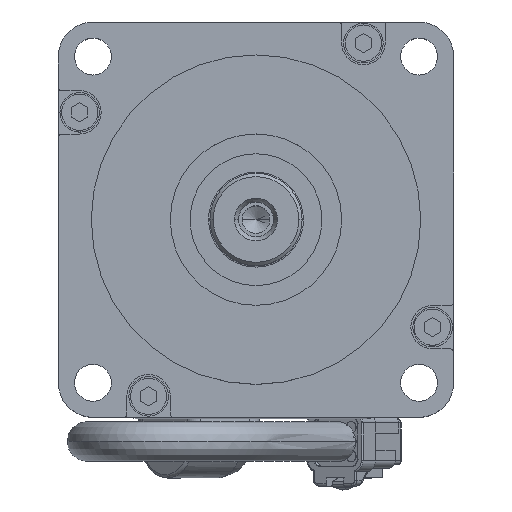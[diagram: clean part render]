
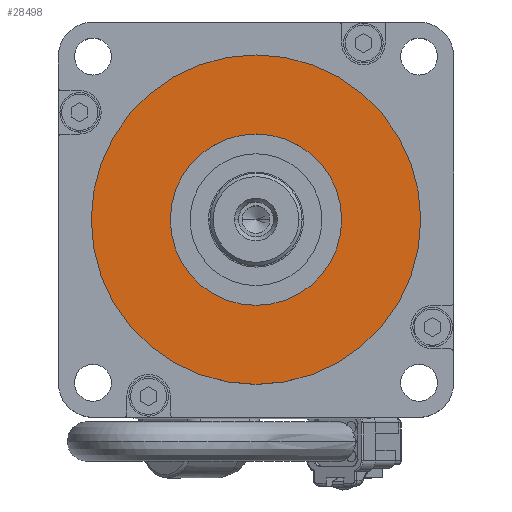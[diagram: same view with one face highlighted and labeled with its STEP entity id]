
A CAD part, top view. The second image highlights one B-rep face of the part: STEP entity #28498.
In plain terms, the highlighted planar face has unit normal (0, 0, 1).
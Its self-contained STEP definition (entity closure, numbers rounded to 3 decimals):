
#924 = EDGE_CURVE ( 'NONE', #5490, #2396, #20118, .T. ) ;
#1437 = DIRECTION ( 'NONE',  ( 0., 0., 1. ) ) ;
#2059 = CARTESIAN_POINT ( 'NONE',  ( 0., 0., 3. ) ) ;
#2253 = CARTESIAN_POINT ( 'NONE',  ( 0., 0., 3. ) ) ;
#2396 = VERTEX_POINT ( 'NONE', #2690 ) ;
#2690 = CARTESIAN_POINT ( 'NONE',  ( 13., 0., 3. ) ) ;
#2956 = CIRCLE ( 'NONE', #24352, 13. ) ;
#3632 = AXIS2_PLACEMENT_3D ( 'NONE', #2059, #13066, #8664 ) ;
#4040 = CARTESIAN_POINT ( 'NONE',  ( 0., 0., 3. ) ) ;
#4425 = EDGE_CURVE ( 'NONE', #2396, #5490, #2956, .T. ) ;
#4610 = ORIENTED_EDGE ( 'NONE', *, *, #18187, .F. ) ;
#5233 = CARTESIAN_POINT ( 'NONE',  ( 0., 0., 3. ) ) ;
#5490 = VERTEX_POINT ( 'NONE', #23196 ) ;
#5685 = CIRCLE ( 'NONE', #11532, 25. ) ;
#6549 = ORIENTED_EDGE ( 'NONE', *, *, #4425, .T. ) ;
#6637 = EDGE_LOOP ( 'NONE', ( #20905, #4610 ) ) ;
#7351 = CARTESIAN_POINT ( 'NONE',  ( -25., 0., 3. ) ) ;
#7389 = DIRECTION ( 'NONE',  ( 0., 0., -1. ) ) ;
#7606 = EDGE_CURVE ( 'NONE', #13990, #13753, #16796, .T. ) ;
#8664 = DIRECTION ( 'NONE',  ( -1., 0., 0. ) ) ;
#8802 = EDGE_LOOP ( 'NONE', ( #11109, #6549 ) ) ;
#11109 = ORIENTED_EDGE ( 'NONE', *, *, #924, .T. ) ;
#11532 = AXIS2_PLACEMENT_3D ( 'NONE', #14750, #23985, #12430 ) ;
#12430 = DIRECTION ( 'NONE',  ( -1., 0., 0. ) ) ;
#13066 = DIRECTION ( 'NONE',  ( 0., 0., -1. ) ) ;
#13753 = VERTEX_POINT ( 'NONE', #27636 ) ;
#13990 = VERTEX_POINT ( 'NONE', #7351 ) ;
#14750 = CARTESIAN_POINT ( 'NONE',  ( 0., 0., 3. ) ) ;
#15293 = AXIS2_PLACEMENT_3D ( 'NONE', #5233, #7389, #16670 ) ;
#15361 = DIRECTION ( 'NONE',  ( 1., 0., 0. ) ) ;
#16670 = DIRECTION ( 'NONE',  ( 1., 0., 0. ) ) ;
#16796 = CIRCLE ( 'NONE', #3632, 25. ) ;
#18187 = EDGE_CURVE ( 'NONE', #13753, #13990, #5685, .T. ) ;
#18568 = DIRECTION ( 'NONE',  ( 0., 0., -1. ) ) ;
#20118 = CIRCLE ( 'NONE', #15293, 13. ) ;
#20187 = FACE_OUTER_BOUND ( 'NONE', #6637, .T. ) ;
#20905 = ORIENTED_EDGE ( 'NONE', *, *, #7606, .F. ) ;
#21280 = DIRECTION ( 'NONE',  ( 1., 0., 0. ) ) ;
#23196 = CARTESIAN_POINT ( 'NONE',  ( -13., 0., 3. ) ) ;
#23985 = DIRECTION ( 'NONE',  ( 0., 0., -1. ) ) ;
#24352 = AXIS2_PLACEMENT_3D ( 'NONE', #2253, #18568, #21280 ) ;
#24893 = PLANE ( 'NONE',  #27412 ) ;
#27002 = FACE_BOUND ( 'NONE', #8802, .T. ) ;
#27412 = AXIS2_PLACEMENT_3D ( 'NONE', #4040, #1437, #15361 ) ;
#27636 = CARTESIAN_POINT ( 'NONE',  ( 25., 0., 3. ) ) ;
#28498 = ADVANCED_FACE ( 'NONE', ( #20187, #27002 ), #24893, .T. ) ;
